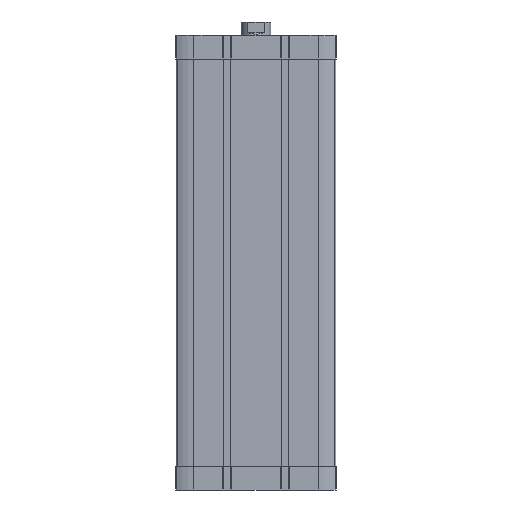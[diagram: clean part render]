
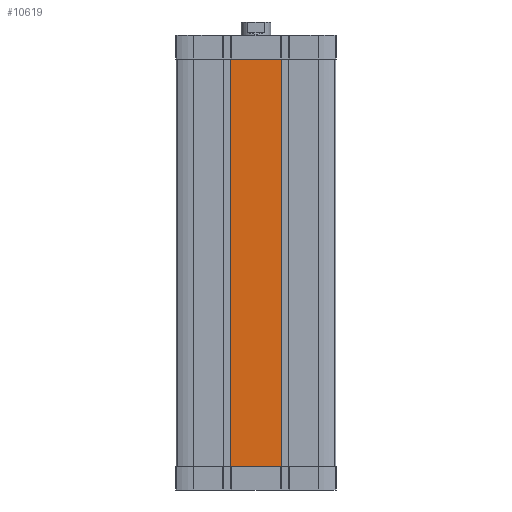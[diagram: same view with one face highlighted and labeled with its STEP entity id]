
A CAD part, front view. The second image highlights one B-rep face of the part: STEP entity #10619.
In plain terms, the highlighted planar face has unit normal (0, -1, 0).
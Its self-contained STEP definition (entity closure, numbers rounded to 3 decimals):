
#73 = DIRECTION ( 'NONE',  ( 1., 0., 0. ) ) ;
#345 = DIRECTION ( 'NONE',  ( 1., 0., 0. ) ) ;
#516 = LINE ( 'NONE', #7404, #3507 ) ;
#699 = CARTESIAN_POINT ( 'NONE',  ( -67., -67., -20. ) ) ;
#887 = EDGE_CURVE ( 'NONE', #9097, #3197, #1971, .T. ) ;
#1207 = VECTOR ( 'NONE', #8227, 1000. ) ;
#1347 = VECTOR ( 'NONE', #73, 1000. ) ;
#1358 = VERTEX_POINT ( 'NONE', #9091 ) ;
#1971 = LINE ( 'NONE', #16587, #11474 ) ;
#2077 = EDGE_CURVE ( 'NONE', #3197, #16732, #516, .T. ) ;
#2589 = EDGE_CURVE ( 'NONE', #16732, #8255, #14481, .T. ) ;
#2603 = LINE ( 'NONE', #14784, #1347 ) ;
#2680 = EDGE_CURVE ( 'NONE', #4774, #10486, #13445, .T. ) ;
#3177 = FACE_OUTER_BOUND ( 'NONE', #15740, .T. ) ;
#3197 = VERTEX_POINT ( 'NONE', #16137 ) ;
#3507 = VECTOR ( 'NONE', #345, 1000. ) ;
#3695 = DIRECTION ( 'NONE',  ( 0., 0., 1. ) ) ;
#4196 = CARTESIAN_POINT ( 'NONE',  ( 21.3, -67., -20. ) ) ;
#4241 = LINE ( 'NONE', #12169, #7294 ) ;
#4317 = VECTOR ( 'NONE', #15502, 1000. ) ;
#4481 = DIRECTION ( 'NONE',  ( 0., 0., -1. ) ) ;
#4774 = VERTEX_POINT ( 'NONE', #11678 ) ;
#5817 = ORIENTED_EDGE ( 'NONE', *, *, #6514, .T. ) ;
#5963 = AXIS2_PLACEMENT_3D ( 'NONE', #16575, #13629, #4481 ) ;
#6514 = EDGE_CURVE ( 'NONE', #1358, #9097, #2603, .T. ) ;
#7228 = CARTESIAN_POINT ( 'NONE',  ( -67., -67., -20. ) ) ;
#7294 = VECTOR ( 'NONE', #13637, 1000. ) ;
#7404 = CARTESIAN_POINT ( 'NONE',  ( -67., -67., -361. ) ) ;
#8227 = DIRECTION ( 'NONE',  ( 1., 0., 0. ) ) ;
#8255 = VERTEX_POINT ( 'NONE', #4196 ) ;
#8297 = EDGE_CURVE ( 'NONE', #8971, #4774, #11496, .T. ) ;
#8970 = VECTOR ( 'NONE', #10885, 1000. ) ;
#8971 = VERTEX_POINT ( 'NONE', #12328 ) ;
#9091 = CARTESIAN_POINT ( 'NONE',  ( -21.3, -67., -361. ) ) ;
#9097 = VERTEX_POINT ( 'NONE', #11374 ) ;
#9520 = CARTESIAN_POINT ( 'NONE',  ( -21.3, -67., -20. ) ) ;
#9901 = DIRECTION ( 'NONE',  ( 1., 0., 0. ) ) ;
#10377 = ORIENTED_EDGE ( 'NONE', *, *, #887, .T. ) ;
#10486 = VERTEX_POINT ( 'NONE', #14765 ) ;
#10619 = ADVANCED_FACE ( 'NONE', ( #3177 ), #12495, .T. ) ;
#10885 = DIRECTION ( 'NONE',  ( 1., 0., 0. ) ) ;
#11008 = VECTOR ( 'NONE', #3695, 1000. ) ;
#11374 = CARTESIAN_POINT ( 'NONE',  ( -20.687, -67., -361. ) ) ;
#11383 = EDGE_CURVE ( 'NONE', #10486, #8255, #16532, .T. ) ;
#11474 = VECTOR ( 'NONE', #9901, 1000. ) ;
#11496 = LINE ( 'NONE', #699, #4317 ) ;
#11678 = CARTESIAN_POINT ( 'NONE',  ( -20.687, -67., -20. ) ) ;
#11774 = ORIENTED_EDGE ( 'NONE', *, *, #11383, .F. ) ;
#12169 = CARTESIAN_POINT ( 'NONE',  ( -21.3, -67., -361. ) ) ;
#12328 = CARTESIAN_POINT ( 'NONE',  ( -21.3, -67., -20. ) ) ;
#12495 = PLANE ( 'NONE',  #5963 ) ;
#12867 = ORIENTED_EDGE ( 'NONE', *, *, #2680, .F. ) ;
#13445 = LINE ( 'NONE', #9520, #1207 ) ;
#13629 = DIRECTION ( 'NONE',  ( 0., -1., 0. ) ) ;
#13637 = DIRECTION ( 'NONE',  ( 0., 0., 1. ) ) ;
#14481 = LINE ( 'NONE', #15869, #11008 ) ;
#14546 = CARTESIAN_POINT ( 'NONE',  ( 21.3, -67., -361. ) ) ;
#14765 = CARTESIAN_POINT ( 'NONE',  ( 20.687, -67., -20. ) ) ;
#14784 = CARTESIAN_POINT ( 'NONE',  ( -67., -67., -361. ) ) ;
#15212 = ORIENTED_EDGE ( 'NONE', *, *, #15744, .F. ) ;
#15502 = DIRECTION ( 'NONE',  ( 1., 0., 0. ) ) ;
#15662 = ORIENTED_EDGE ( 'NONE', *, *, #8297, .F. ) ;
#15740 = EDGE_LOOP ( 'NONE', ( #15212, #5817, #10377, #15855, #16992, #11774, #12867, #15662 ) ) ;
#15744 = EDGE_CURVE ( 'NONE', #1358, #8971, #4241, .T. ) ;
#15855 = ORIENTED_EDGE ( 'NONE', *, *, #2077, .T. ) ;
#15869 = CARTESIAN_POINT ( 'NONE',  ( 21.3, -67., -361. ) ) ;
#16137 = CARTESIAN_POINT ( 'NONE',  ( 20.687, -67., -361. ) ) ;
#16532 = LINE ( 'NONE', #7228, #8970 ) ;
#16575 = CARTESIAN_POINT ( 'NONE',  ( -67., -67., -361. ) ) ;
#16587 = CARTESIAN_POINT ( 'NONE',  ( -21.3, -67., -361. ) ) ;
#16732 = VERTEX_POINT ( 'NONE', #14546 ) ;
#16992 = ORIENTED_EDGE ( 'NONE', *, *, #2589, .T. ) ;
